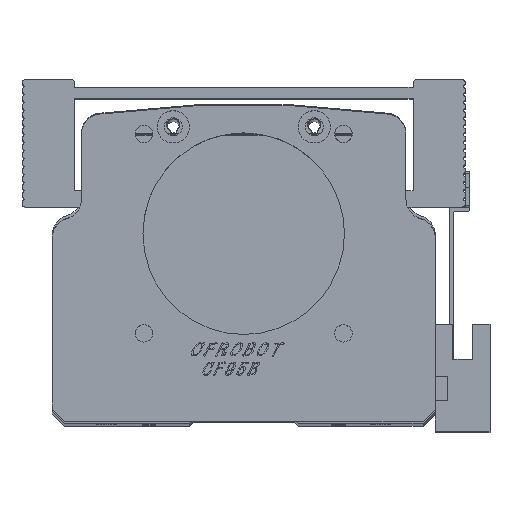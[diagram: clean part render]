
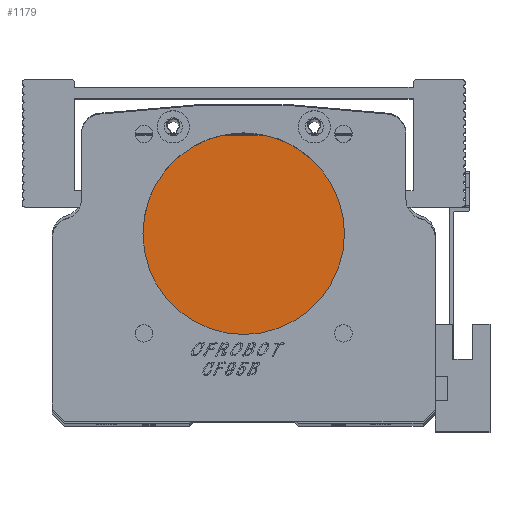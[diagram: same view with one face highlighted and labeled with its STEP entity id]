
A CAD part, top view. The second image highlights one B-rep face of the part: STEP entity #1179.
In plain terms, the highlighted planar face has unit normal (0, 0, 1).
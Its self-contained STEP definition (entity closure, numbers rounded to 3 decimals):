
#758 = VERTEX_POINT ( 'NONE', #117622 ) ;
#1179 = ADVANCED_FACE ( 'NONE', ( #105390 ), #141666, .T. ) ;
#2578 = EDGE_CURVE ( 'NONE', #133524, #78537, #118989, .T. ) ;
#3121 = EDGE_CURVE ( 'NONE', #758, #133524, #88121, .T. ) ;
#5339 = CARTESIAN_POINT ( 'NONE',  ( 0., 7.73, 0. ) ) ;
#7502 = ORIENTED_EDGE ( 'NONE', *, *, #52758, .F. ) ;
#8932 = ORIENTED_EDGE ( 'NONE', *, *, #2578, .T. ) ;
#16993 = DIRECTION ( 'NONE',  ( 1., 0., 0. ) ) ;
#21058 = AXIS2_PLACEMENT_3D ( 'NONE', #130562, #61230, #142174 ) ;
#25800 = VECTOR ( 'NONE', #86397, 1000. ) ;
#38572 = CARTESIAN_POINT ( 'NONE',  ( 0., 7.73, 0. ) ) ;
#50169 = DIRECTION ( 'NONE',  ( 1., 0., 0. ) ) ;
#50699 = AXIS2_PLACEMENT_3D ( 'NONE', #38572, #119489, #50169 ) ;
#50950 = CIRCLE ( 'NONE', #50699, 25. ) ;
#50952 = CARTESIAN_POINT ( 'NONE',  ( 27., 31.98, 0. ) ) ;
#51238 = DIRECTION ( 'NONE',  ( 0., 0., 1. ) ) ;
#52758 = EDGE_CURVE ( 'NONE', #758, #121493, #145182, .T. ) ;
#61022 = CARTESIAN_POINT ( 'NONE',  ( -25., 7.73, 0. ) ) ;
#61230 = DIRECTION ( 'NONE',  ( 0., 0., 1. ) ) ;
#76504 = ORIENTED_EDGE ( 'NONE', *, *, #136029, .T. ) ;
#78537 = VERTEX_POINT ( 'NONE', #136393 ) ;
#86311 = DIRECTION ( 'NONE',  ( 0., 0., 1. ) ) ;
#86397 = DIRECTION ( 'NONE',  ( 1., 0., 0. ) ) ;
#86832 = ORIENTED_EDGE ( 'NONE', *, *, #3121, .T. ) ;
#88121 = CIRCLE ( 'NONE', #127802, 25. ) ;
#91905 = AXIS2_PLACEMENT_3D ( 'NONE', #5339, #86311, #16993 ) ;
#104395 = CARTESIAN_POINT ( 'NONE',  ( 6.078, 31.98, 0. ) ) ;
#105390 = FACE_OUTER_BOUND ( 'NONE', #119007, .T. ) ;
#117622 = CARTESIAN_POINT ( 'NONE',  ( -6.078, 31.98, 0. ) ) ;
#118989 = CIRCLE ( 'NONE', #91905, 25. ) ;
#119007 = EDGE_LOOP ( 'NONE', ( #7502, #86832, #8932, #76504 ) ) ;
#119489 = DIRECTION ( 'NONE',  ( 0., 0., 1. ) ) ;
#120610 = CARTESIAN_POINT ( 'NONE',  ( 0., 7.73, 0. ) ) ;
#121493 = VERTEX_POINT ( 'NONE', #104395 ) ;
#127802 = AXIS2_PLACEMENT_3D ( 'NONE', #120610, #51238, #132184 ) ;
#130562 = CARTESIAN_POINT ( 'NONE',  ( 0., 0., 0. ) ) ;
#132184 = DIRECTION ( 'NONE',  ( 1., 0., 0. ) ) ;
#133524 = VERTEX_POINT ( 'NONE', #61022 ) ;
#136029 = EDGE_CURVE ( 'NONE', #78537, #121493, #50950, .T. ) ;
#136393 = CARTESIAN_POINT ( 'NONE',  ( 25., 7.73, 0. ) ) ;
#141666 = PLANE ( 'NONE',  #21058 ) ;
#142174 = DIRECTION ( 'NONE',  ( 1., 0., 0. ) ) ;
#145182 = LINE ( 'NONE', #50952, #25800 ) ;
